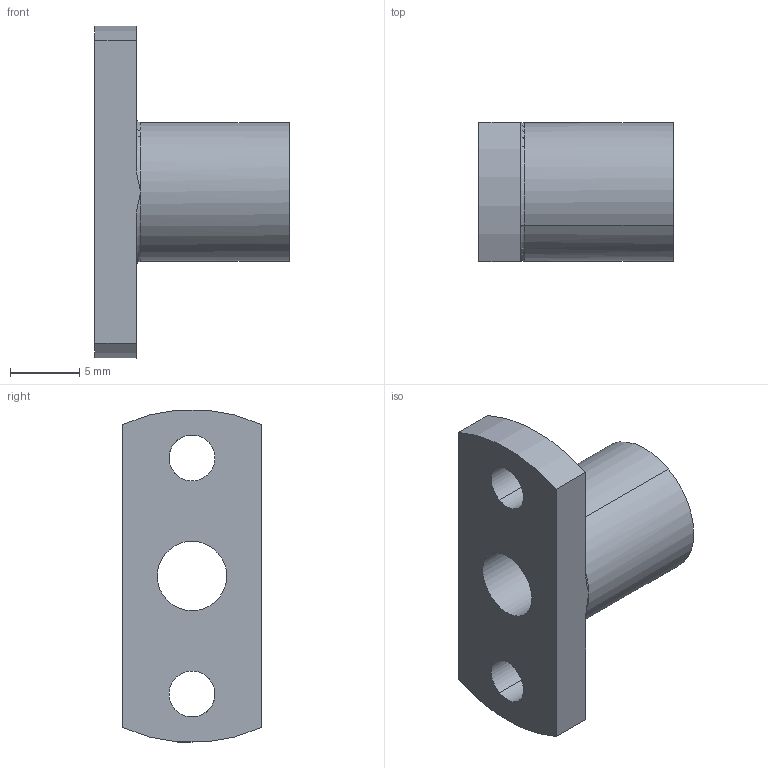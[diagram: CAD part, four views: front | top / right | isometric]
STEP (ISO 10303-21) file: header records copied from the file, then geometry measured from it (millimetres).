
FILE_DESCRIPTION(('CATIA V5 STEP Exchange'),'2;1');
FILE_NAME('C:\Users\aa\Documents\이댈\TM\ASM\ASM5020.stp','2020-04-01T09:14:00+00:00',('none'),('none'),'CATIA Version 5 Release 20 SP 7 (IN-10)','CATIA V5 STEP AP203','none');
FILE_SCHEMA(('CONFIG_CONTROL_DESIGN'));
Length unit declared in the file: millimetre
Products named in the file (1): ASM5020
Bounding box: 14 x 10 x 23.91 mm (x, y, z)
Volume: 1236.9 mm3; surface area: 1209.2 mm2
Topology: 1 solids, 1 shells, 20 faces, 50 edges, 32 vertices
Faces by surface type: cylinder 10, plane 6, torus 4
Entity records: 659 total; most frequent: CARTESIAN_POINT 156, ORIENTED_EDGE 100, DIRECTION 75, EDGE_CURVE 50, AXIS2_PLACEMENT_3D 41, VERTEX_POINT 32, EDGE_LOOP 26, CIRCLE 23
